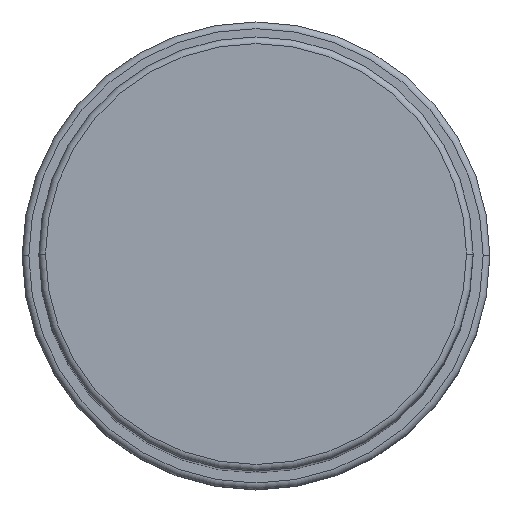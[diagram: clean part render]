
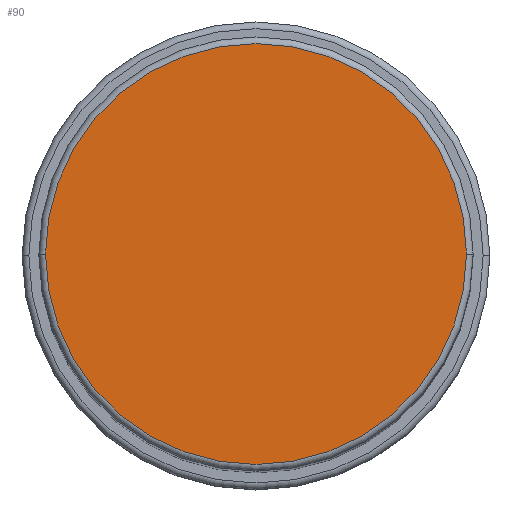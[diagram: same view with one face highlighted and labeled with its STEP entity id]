
A CAD part, top view. The second image highlights one B-rep face of the part: STEP entity #90.
In plain terms, the highlighted planar face has unit normal (0, 0, 1).
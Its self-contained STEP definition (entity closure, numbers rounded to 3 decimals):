
#90 = ADVANCED_FACE ( 'NONE', ( #1530 ), #1268, .T. ) ;
#101 = EDGE_CURVE ( 'NONE', #1010, #900, #231, .T. ) ;
#195 = CIRCLE ( 'NONE', #291, 31.5 ) ;
#231 = CIRCLE ( 'NONE', #346, 31.5 ) ;
#291 = AXIS2_PLACEMENT_3D ( 'NONE', #688, #557, #1527 ) ;
#293 = DIRECTION ( 'NONE',  ( 0., 0., 1. ) ) ;
#346 = AXIS2_PLACEMENT_3D ( 'NONE', #872, #1543, #1276 ) ;
#557 = DIRECTION ( 'NONE',  ( 0., 0., 1. ) ) ;
#586 = EDGE_CURVE ( 'NONE', #900, #1010, #195, .T. ) ;
#688 = CARTESIAN_POINT ( 'NONE',  ( 0., 0., 168. ) ) ;
#841 = ORIENTED_EDGE ( 'NONE', *, *, #586, .T. ) ;
#872 = CARTESIAN_POINT ( 'NONE',  ( 0., 0., 168. ) ) ;
#900 = VERTEX_POINT ( 'NONE', #1330 ) ;
#929 = ORIENTED_EDGE ( 'NONE', *, *, #101, .T. ) ;
#1003 = EDGE_LOOP ( 'NONE', ( #841, #929 ) ) ;
#1010 = VERTEX_POINT ( 'NONE', #1425 ) ;
#1235 = CARTESIAN_POINT ( 'NONE',  ( 0., 0., 168. ) ) ;
#1268 = PLANE ( 'NONE',  #1738 ) ;
#1276 = DIRECTION ( 'NONE',  ( 1., 0., 0. ) ) ;
#1330 = CARTESIAN_POINT ( 'NONE',  ( 31.5, 0., 168. ) ) ;
#1425 = CARTESIAN_POINT ( 'NONE',  ( -31.5, 0., 168. ) ) ;
#1498 = DIRECTION ( 'NONE',  ( 1., 0., 0. ) ) ;
#1527 = DIRECTION ( 'NONE',  ( 1., 0., 0. ) ) ;
#1530 = FACE_OUTER_BOUND ( 'NONE', #1003, .T. ) ;
#1543 = DIRECTION ( 'NONE',  ( 0., 0., 1. ) ) ;
#1738 = AXIS2_PLACEMENT_3D ( 'NONE', #1235, #293, #1498 ) ;
